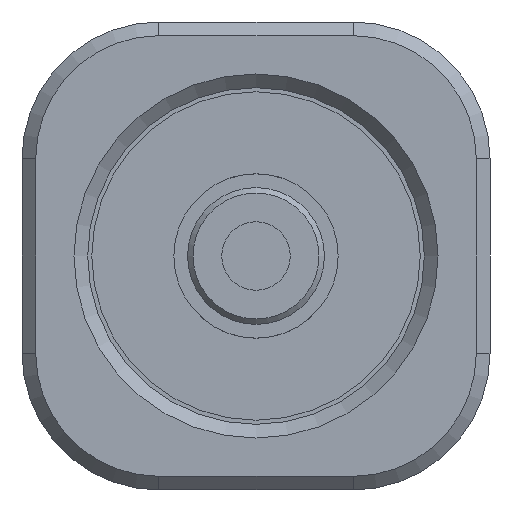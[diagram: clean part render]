
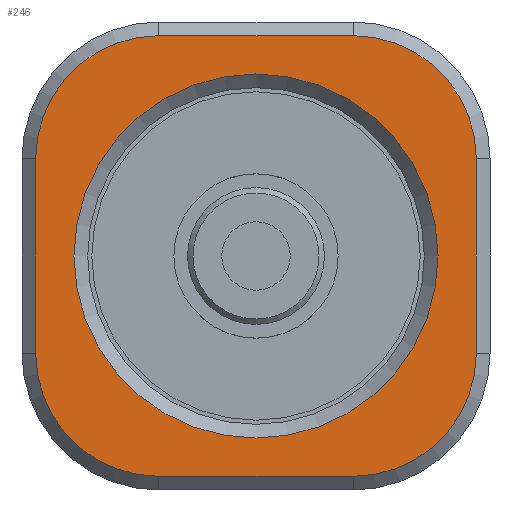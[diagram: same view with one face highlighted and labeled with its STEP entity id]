
A CAD part, front view. The second image highlights one B-rep face of the part: STEP entity #246.
In plain terms, the highlighted planar face has unit normal (0, -1, 0).
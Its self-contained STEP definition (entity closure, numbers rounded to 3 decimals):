
#118=PLANE('',#1450);
#176=LINE('',#2155,#214);
#177=LINE('',#2160,#215);
#178=LINE('',#2164,#216);
#179=LINE('',#2168,#217);
#214=VECTOR('',#1695,1.);
#215=VECTOR('',#1698,1.);
#216=VECTOR('',#1701,1.);
#217=VECTOR('',#1704,1.);
#246=ADVANCED_FACE('',(#398,#399),#118,.T.);
#398=FACE_BOUND('',#577,.T.);
#399=FACE_BOUND('',#578,.T.);
#577=EDGE_LOOP('',(#807));
#578=EDGE_LOOP('',(#808,#809,#810,#811,#812,#813,#814,#815));
#807=ORIENTED_EDGE('',*,*,#1207,.T.);
#808=ORIENTED_EDGE('',*,*,#1208,.T.);
#809=ORIENTED_EDGE('',*,*,#1209,.T.);
#810=ORIENTED_EDGE('',*,*,#1210,.T.);
#811=ORIENTED_EDGE('',*,*,#1211,.T.);
#812=ORIENTED_EDGE('',*,*,#1212,.T.);
#813=ORIENTED_EDGE('',*,*,#1213,.T.);
#814=ORIENTED_EDGE('',*,*,#1214,.T.);
#815=ORIENTED_EDGE('',*,*,#1215,.T.);
#1077=VERTEX_POINT('',#2154);
#1078=VERTEX_POINT('',#2156);
#1079=VERTEX_POINT('',#2157);
#1080=VERTEX_POINT('',#2159);
#1081=VERTEX_POINT('',#2161);
#1082=VERTEX_POINT('',#2163);
#1083=VERTEX_POINT('',#2165);
#1084=VERTEX_POINT('',#2167);
#1085=VERTEX_POINT('',#2169);
#1207=EDGE_CURVE('',#1077,#1077,#1337,.T.);
#1208=EDGE_CURVE('',#1078,#1079,#176,.T.);
#1209=EDGE_CURVE('',#1079,#1080,#1338,.T.);
#1210=EDGE_CURVE('',#1080,#1081,#177,.T.);
#1211=EDGE_CURVE('',#1081,#1082,#1339,.T.);
#1212=EDGE_CURVE('',#1082,#1083,#178,.T.);
#1213=EDGE_CURVE('',#1083,#1084,#1340,.T.);
#1214=EDGE_CURVE('',#1084,#1085,#179,.T.);
#1215=EDGE_CURVE('',#1085,#1078,#1341,.T.);
#1337=CIRCLE('',#1445,6.65);
#1338=CIRCLE('',#1446,4.5);
#1339=CIRCLE('',#1447,4.5);
#1340=CIRCLE('',#1448,4.5);
#1341=CIRCLE('',#1449,4.5);
#1445=AXIS2_PLACEMENT_3D('',#2153,#1693,#1694);
#1446=AXIS2_PLACEMENT_3D('',#2158,#1696,#1697);
#1447=AXIS2_PLACEMENT_3D('',#2162,#1699,#1700);
#1448=AXIS2_PLACEMENT_3D('',#2166,#1702,#1703);
#1449=AXIS2_PLACEMENT_3D('',#2170,#1705,#1706);
#1450=AXIS2_PLACEMENT_3D('',#2171,#1707,#1708);
#1693=DIRECTION('',(0.,1.,0.));
#1694=DIRECTION('',(0.,0.,-1.));
#1695=DIRECTION('',(1.,0.,0.));
#1696=DIRECTION('',(0.,-1.,0.));
#1697=DIRECTION('',(0.,0.,-1.));
#1698=DIRECTION('',(0.,0.,1.));
#1699=DIRECTION('',(0.,-1.,0.));
#1700=DIRECTION('',(0.,0.,-1.));
#1701=DIRECTION('',(-1.,0.,0.));
#1702=DIRECTION('',(0.,-1.,0.));
#1703=DIRECTION('',(0.,0.,-1.));
#1704=DIRECTION('',(0.,0.,-1.));
#1705=DIRECTION('',(0.,-1.,0.));
#1706=DIRECTION('',(0.,0.,-1.));
#1707=DIRECTION('',(0.,-1.,0.));
#1708=DIRECTION('',(0.,0.,-1.));
#2153=CARTESIAN_POINT('',(35.771,-82.719,-26.95));
#2154=CARTESIAN_POINT('',(35.771,-82.719,-33.6));
#2155=CARTESIAN_POINT('',(39.321,-82.719,-35.));
#2156=CARTESIAN_POINT('',(32.221,-82.719,-35.));
#2157=CARTESIAN_POINT('',(39.321,-82.719,-35.));
#2158=CARTESIAN_POINT('',(39.321,-82.719,-30.5));
#2159=CARTESIAN_POINT('',(43.821,-82.719,-30.5));
#2160=CARTESIAN_POINT('',(43.821,-82.719,-23.4));
#2161=CARTESIAN_POINT('',(43.821,-82.719,-23.4));
#2162=CARTESIAN_POINT('',(39.321,-82.719,-23.4));
#2163=CARTESIAN_POINT('',(39.321,-82.719,-18.9));
#2164=CARTESIAN_POINT('',(32.221,-82.719,-18.9));
#2165=CARTESIAN_POINT('',(32.221,-82.719,-18.9));
#2166=CARTESIAN_POINT('',(32.221,-82.719,-23.4));
#2167=CARTESIAN_POINT('',(27.721,-82.719,-23.4));
#2168=CARTESIAN_POINT('',(27.721,-82.719,-30.5));
#2169=CARTESIAN_POINT('',(27.721,-82.719,-30.5));
#2170=CARTESIAN_POINT('',(32.221,-82.719,-30.5));
#2171=CARTESIAN_POINT('',(35.771,-82.719,-26.95));
